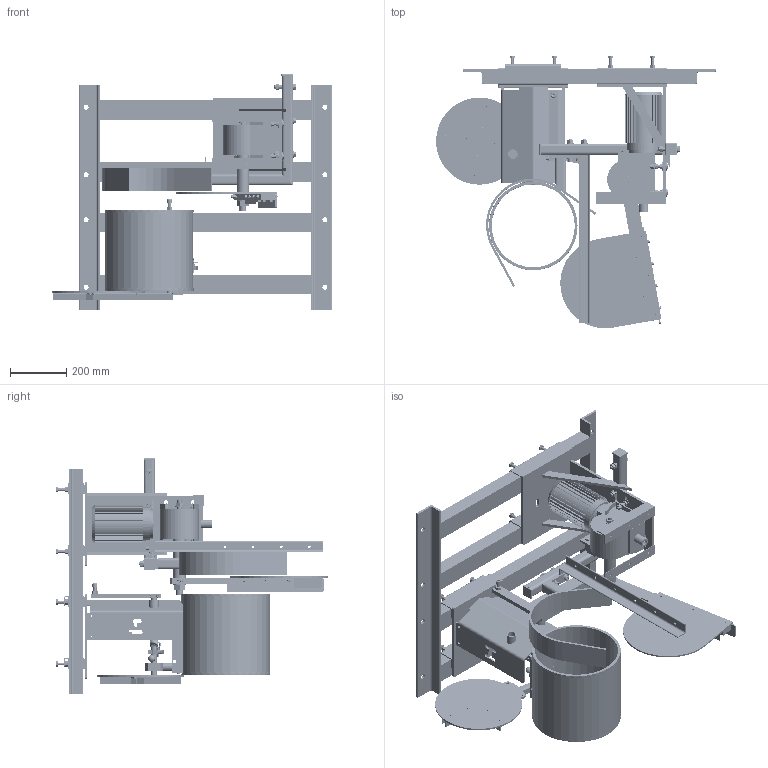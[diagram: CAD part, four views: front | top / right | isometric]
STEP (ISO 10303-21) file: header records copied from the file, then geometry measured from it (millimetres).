
FILE_DESCRIPTION( ( 'Assembly Moisture Equipment' ), '1' );
FILE_NAME( 'Z:/Tekeningen/Solid Edge/SG-Bepaler/Eind Ontwerp/Body/20130627 - Left version_par.stp', 'Unknown', ( 'ADU' ), ( 'INADCO Moisture Measurment' ), 'PSStep 14.0', 'Solid Edge ST3', ' ' );
FILE_SCHEMA( ( 'AUTOMOTIVE_DESIGN { 1 0 10303 214 1 1 1 1 }' ) );
Length unit declared in the file: millimetre
Products named in the file (413): loadcell steun; 1; 2; 3; 4; 5; 6; 7; 8; 9; 10; 11; 12; 13; 14; 15; 16; 17; 18; 19; 20; 21; 22; 23; 24; 25; 26; 27; 28; 29; 30; 31; 32; 33; 34; 35; 36; 37; 38; 39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
Bounding box: 995.94 x 969.39 x 838 mm (x, y, z)
Surface area: 5913169.2 mm2 (no closed solid volume)
Topology: 0 solids, 6440 shells, 6440 faces, 27456 edges, 25830 vertices
Faces by surface type: plane 3375, cylinder 1690, cone 1232, torus 94, extrusion 38, sphere 9, bspline 2
Full cylindrical faces by diameter (mm): 4 x4, 4.02 x4, 4.727 x15, 4.747 x15, 4.75 x6, 4.77 x6, 4.917 x16, 5 x18, 5.25 x3, 5.3 x4, 6 x87, 6.01 x4, 6.4 x17, 6.418 x11, 6.438 x11, 6.45 x1, 6.468 x20, 6.47 x21, 6.5 x20, 6.647 x7, 6.8 x70, 7 x7, 7.998 x16, 8 x121, 8.14 x6, 8.16 x6, 8.4 x29, 8.5 x12, 9 x37, 9.83 x3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
Entity records: 315458 total; most frequent: CARTESIAN_POINT 108771, DIRECTION 43846, ORIENTED_EDGE 24676, EDGE_CURVE 24676, VERTEX_POINT 24676, AXIS2_PLACEMENT_3D 16867, VECTOR 10112, LINE 10074
